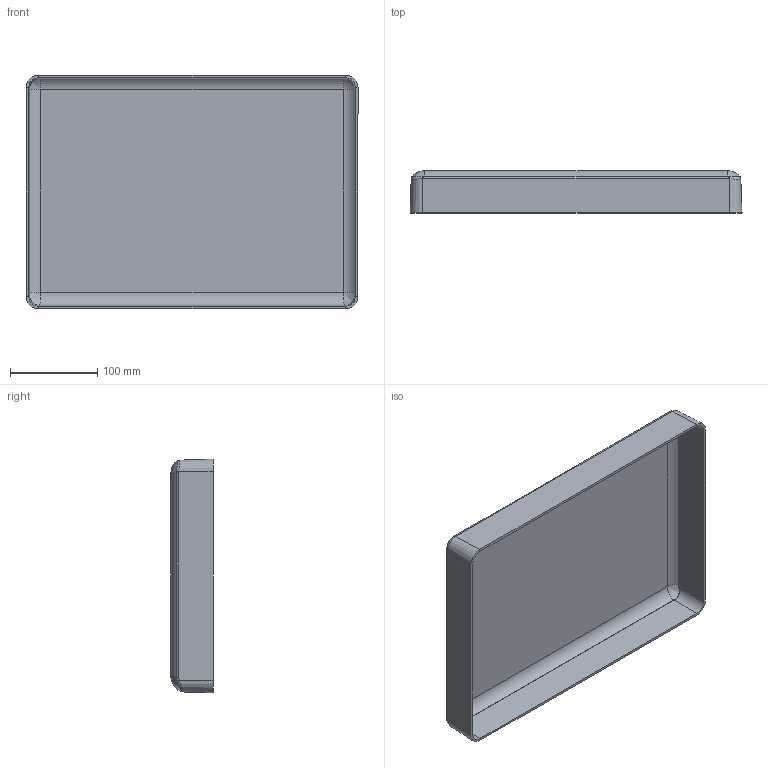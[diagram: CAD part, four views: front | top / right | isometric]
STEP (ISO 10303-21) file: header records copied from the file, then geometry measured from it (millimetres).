
FILE_DESCRIPTION (( 'STEP AP214' ), '1' );
FILE_NAME ('1450 Peli Case Top.STEP', '2016-01-11T01:49:15', ( '' ), ( '' ), 'SwSTEP 2.0', 'SolidWorks 2014', '' );
FILE_SCHEMA (( 'AUTOMOTIVE_DESIGN' ));
Length unit declared in the file: inch
Products named in the file (1): 1450 Peli Case Top
Bounding box: 379.47 x 48.26 x 267.46 mm (x, y, z)
Volume: 419122.9 mm3; surface area: 303564.4 mm2
Topology: 1 solids, 1 shells, 76 faces, 172 edges, 88 vertices
Faces by surface type: bspline 32, plane 16, cylinder 16, cone 12
Entity records: 3472 total; most frequent: CARTESIAN_POINT 2059, ORIENTED_EDGE 328, DIRECTION 226, EDGE_CURVE 164, VERTEX_POINT 88, AXIS2_PLACEMENT_3D 85, EDGE_LOOP 76, FACE_OUTER_BOUND 76
